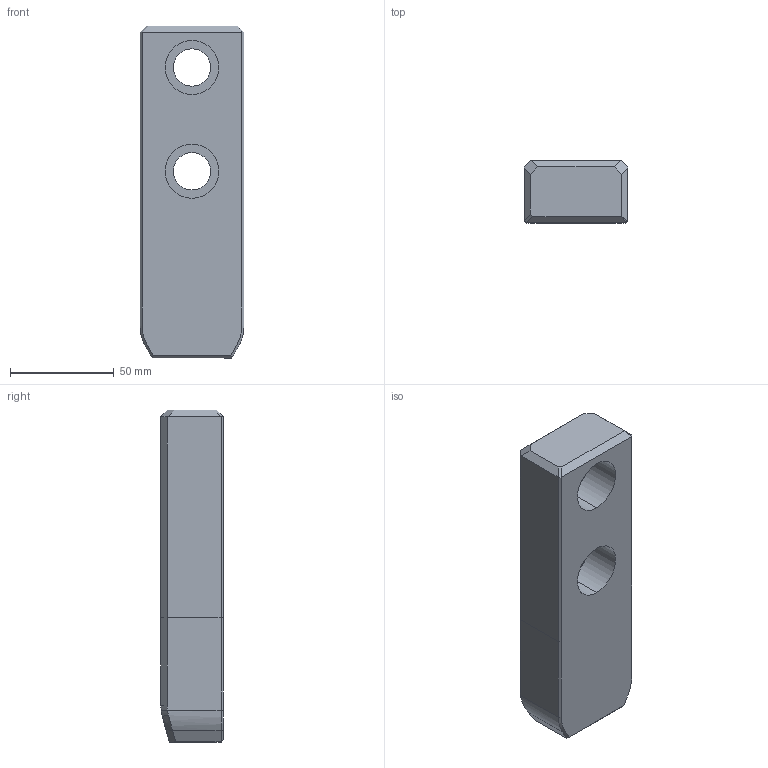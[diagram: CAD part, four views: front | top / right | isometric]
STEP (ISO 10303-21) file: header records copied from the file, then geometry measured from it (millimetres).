
FILE_DESCRIPTION((''),'2;1');
FILE_NAME('','2010-08-30T14:07:21+09:00',('misumi'),(''),'M/STEP i/f 1R2-14','CADmeister v5.1','');
FILE_SCHEMA(('AUTOMOTIVE_DESIGN'));
Length unit declared in the file: millimetre
Products named in the file (1): OGPZ50-160
Bounding box: 50 x 30 x 160 mm (x, y, z)
Volume: 209230.5 mm3; surface area: 30196.9 mm2
Topology: 1 solids, 1 shells, 53 faces, 126 edges, 77 vertices
Faces by surface type: plane 34, cylinder 11, cone 4, bspline 4
Entity records: 1818 total; most frequent: CARTESIAN_POINT 521, ORIENTED_EDGE 252, DIRECTION 238, EDGE_CURVE 126, LINE 90, VECTOR 90, VERTEX_POINT 77, AXIS2_PLACEMENT_3D 74
